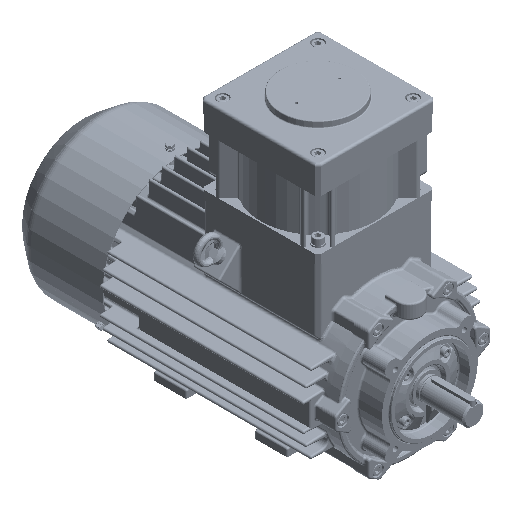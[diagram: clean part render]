
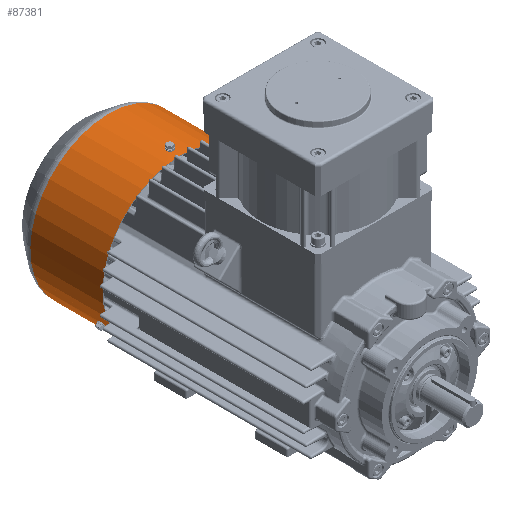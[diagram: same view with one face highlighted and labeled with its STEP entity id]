
A CAD part, isometric view. The second image highlights one B-rep face of the part: STEP entity #87381.
In plain terms, the highlighted cylindrical face has radius 105 mm (diameter 210 mm), a partial arc.
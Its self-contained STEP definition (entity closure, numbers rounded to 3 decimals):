
#1786=B_SPLINE_CURVE_WITH_KNOTS('',3,(#141268,#141269,#141270,#141271,#141272,
#141273,#141274),.UNSPECIFIED.,.F.,.F.,(4,1,1,1,4),(0.,0.002,
0.004,0.006,0.008),
 .UNSPECIFIED.);
#1787=B_SPLINE_CURVE_WITH_KNOTS('',3,(#141276,#141277,#141278,#141279,#141280,
#141281,#141282),.UNSPECIFIED.,.F.,.F.,(4,1,1,1,4),(0.,0.002,
0.004,0.006,0.008),
 .UNSPECIFIED.);
#1790=B_SPLINE_CURVE_WITH_KNOTS('',3,(#141311,#141312,#141313,#141314,#141315,
#141316,#141317),.UNSPECIFIED.,.F.,.F.,(4,1,1,1,4),(0.,
0.002,0.004,0.006,0.008),
 .UNSPECIFIED.);
#1792=B_SPLINE_CURVE_WITH_KNOTS('',3,(#141334,#141335,#141336,#141337,#141338,
#141339,#141340),.UNSPECIFIED.,.F.,.F.,(4,1,1,1,4),(0.,
0.002,0.004,0.006,0.008),
 .UNSPECIFIED.);
#1794=B_SPLINE_CURVE_WITH_KNOTS('',3,(#141381,#141382,#141383,#141384,#141385,
#141386,#141387),.UNSPECIFIED.,.F.,.F.,(4,1,1,1,4),(0.,
0.002,0.004,0.006,0.008),
 .UNSPECIFIED.);
#1796=B_SPLINE_CURVE_WITH_KNOTS('',3,(#141399,#141400,#141401,#141402,#141403,
#141404,#141405),.UNSPECIFIED.,.F.,.F.,(4,1,1,1,4),(0.,0.002,
0.004,0.006,0.008),
 .UNSPECIFIED.);
#3497=CYLINDRICAL_SURFACE('',#94264,105.);
#6914=CIRCLE('',#94230,105.);
#6916=CIRCLE('',#94233,105.);
#6920=CIRCLE('',#94243,105.);
#6922=CIRCLE('',#94246,105.);
#6926=CIRCLE('',#94252,105.);
#6928=CIRCLE('',#94255,105.);
#6930=CIRCLE('',#94260,105.);
#6932=CIRCLE('',#94265,105.);
#20918=ORIENTED_EDGE('',*,*,#33982,.T.);
#20919=ORIENTED_EDGE('',*,*,#33924,.T.);
#20920=ORIENTED_EDGE('',*,*,#33965,.F.);
#20921=ORIENTED_EDGE('',*,*,#33930,.T.);
#20922=ORIENTED_EDGE('',*,*,#33933,.T.);
#20923=ORIENTED_EDGE('',*,*,#33941,.T.);
#20924=ORIENTED_EDGE('',*,*,#33938,.T.);
#20925=ORIENTED_EDGE('',*,*,#33940,.T.);
#20926=ORIENTED_EDGE('',*,*,#33954,.T.);
#20927=ORIENTED_EDGE('',*,*,#33958,.T.);
#20928=ORIENTED_EDGE('',*,*,#33949,.T.);
#20929=ORIENTED_EDGE('',*,*,#33956,.T.);
#20930=ORIENTED_EDGE('',*,*,#33973,.T.);
#20931=ORIENTED_EDGE('',*,*,#33970,.T.);
#20932=ORIENTED_EDGE('',*,*,#33976,.T.);
#20933=ORIENTED_EDGE('',*,*,#33978,.T.);
#33924=EDGE_CURVE('',#41359,#41357,#45875,.T.);
#33930=EDGE_CURVE('',#41362,#41364,#45878,.T.);
#33933=EDGE_CURVE('',#41368,#41367,#6914,.T.);
#33938=EDGE_CURVE('',#41369,#41372,#6916,.T.);
#33940=EDGE_CURVE('',#41372,#41368,#1786,.T.);
#33941=EDGE_CURVE('',#41367,#41369,#1787,.T.);
#33949=EDGE_CURVE('',#41380,#41379,#1790,.T.);
#33954=EDGE_CURVE('',#41381,#41384,#1792,.T.);
#33956=EDGE_CURVE('',#41379,#41381,#6920,.T.);
#33958=EDGE_CURVE('',#41384,#41380,#6922,.T.);
#33965=EDGE_CURVE('',#41362,#41357,#6926,.T.);
#33970=EDGE_CURVE('',#41389,#41392,#6928,.T.);
#33973=EDGE_CURVE('',#41393,#41389,#1794,.T.);
#33976=EDGE_CURVE('',#41392,#41396,#1796,.T.);
#33978=EDGE_CURVE('',#41396,#41393,#6930,.T.);
#33982=EDGE_CURVE('',#41364,#41359,#6932,.T.);
#41357=VERTEX_POINT('',#141226);
#41359=VERTEX_POINT('',#141229);
#41362=VERTEX_POINT('',#141236);
#41364=VERTEX_POINT('',#141240);
#41367=VERTEX_POINT('',#141247);
#41368=VERTEX_POINT('',#141249);
#41369=VERTEX_POINT('',#141253);
#41372=VERTEX_POINT('',#141258);
#41379=VERTEX_POINT('',#141310);
#41380=VERTEX_POINT('',#141318);
#41381=VERTEX_POINT('',#141322);
#41384=VERTEX_POINT('',#141333);
#41389=VERTEX_POINT('',#141363);
#41392=VERTEX_POINT('',#141368);
#41393=VERTEX_POINT('',#141372);
#41396=VERTEX_POINT('',#141398);
#45875=LINE('',#141228,#50367);
#45878=LINE('',#141241,#50370);
#50367=VECTOR('',#110183,1000.);
#50370=VECTOR('',#110194,1000.);
#56110=EDGE_LOOP('',(#20918,#20919,#20920,#20921));
#56111=EDGE_LOOP('',(#20922,#20923,#20924,#20925));
#56112=EDGE_LOOP('',(#20926,#20927,#20928,#20929));
#56113=EDGE_LOOP('',(#20930,#20931,#20932,#20933));
#61092=FACE_BOUND('',#56110,.T.);
#61093=FACE_BOUND('',#56111,.T.);
#61094=FACE_BOUND('',#56112,.T.);
#61095=FACE_BOUND('',#56113,.T.);
#87381=ADVANCED_FACE('',(#61092,#61093,#61094,#61095),#3497,.T.);
#94230=AXIS2_PLACEMENT_3D('',#141248,#110200,#110201);
#94233=AXIS2_PLACEMENT_3D('',#141259,#110209,#110210);
#94243=AXIS2_PLACEMENT_3D('',#141343,#110235,#110236);
#94246=AXIS2_PLACEMENT_3D('',#141346,#110241,#110242);
#94252=AXIS2_PLACEMENT_3D('',#141359,#110256,#110257);
#94255=AXIS2_PLACEMENT_3D('',#141369,#110265,#110266);
#94260=AXIS2_PLACEMENT_3D('',#141408,#110277,#110278);
#94264=AXIS2_PLACEMENT_3D('',#141482,#110285,#110286);
#94265=AXIS2_PLACEMENT_3D('',#141483,#110287,#110288);
#110183=DIRECTION('',(0.,-1.,0.));
#110194=DIRECTION('',(0.,1.,0.));
#110200=DIRECTION('',(0.,-1.,0.));
#110201=DIRECTION('',(-1.,0.,0.));
#110209=DIRECTION('',(0.,1.,0.));
#110210=DIRECTION('',(1.,0.,0.));
#110235=DIRECTION('',(0.,-1.,0.));
#110236=DIRECTION('',(-1.,0.,0.));
#110241=DIRECTION('',(0.,1.,0.));
#110242=DIRECTION('',(1.,0.,0.));
#110256=DIRECTION('',(0.,-1.,0.));
#110257=DIRECTION('',(1.,0.,0.));
#110265=DIRECTION('',(0.,1.,0.));
#110266=DIRECTION('',(1.,0.,0.));
#110277=DIRECTION('',(0.,-1.,0.));
#110278=DIRECTION('',(-1.,0.,0.));
#110285=DIRECTION('',(0.,-1.,0.));
#110286=DIRECTION('',(1.,0.,0.));
#110287=DIRECTION('',(0.,-1.,0.));
#110288=DIRECTION('',(-1.,0.,0.));
#141226=CARTESIAN_POINT('',(-40.599,294.994,-96.833));
#141228=CARTESIAN_POINT('',(-40.599,287.114,-96.833));
#141229=CARTESIAN_POINT('',(-40.599,391.391,-96.833));
#141236=CARTESIAN_POINT('',(40.599,294.994,-96.833));
#141240=CARTESIAN_POINT('',(40.599,391.391,-96.833));
#141241=CARTESIAN_POINT('',(40.599,287.114,-96.833));
#141247=CARTESIAN_POINT('',(91.429,307.394,-51.632));
#141248=CARTESIAN_POINT('',(0.,307.394,0.));
#141249=CARTESIAN_POINT('',(90.429,307.394,-53.364));
#141253=CARTESIAN_POINT('',(91.429,312.594,-51.632));
#141258=CARTESIAN_POINT('',(90.429,312.594,-53.364));
#141259=CARTESIAN_POINT('',(0.,312.594,0.));
#141268=CARTESIAN_POINT('',(90.429,312.594,-53.364));
#141269=CARTESIAN_POINT('',(90.079,312.594,-53.955));
#141270=CARTESIAN_POINT('',(89.381,312.031,-55.107));
#141271=CARTESIAN_POINT('',(88.929,309.997,-55.826));
#141272=CARTESIAN_POINT('',(89.38,307.959,-55.109));
#141273=CARTESIAN_POINT('',(90.079,307.394,-53.955));
#141274=CARTESIAN_POINT('',(90.429,307.394,-53.364));
#141276=CARTESIAN_POINT('',(91.429,307.394,-51.632));
#141277=CARTESIAN_POINT('',(91.766,307.394,-51.034));
#141278=CARTESIAN_POINT('',(92.414,307.956,-49.854));
#141279=CARTESIAN_POINT('',(92.812,309.995,-49.101));
#141280=CARTESIAN_POINT('',(92.415,312.031,-49.852));
#141281=CARTESIAN_POINT('',(91.766,312.594,-51.034));
#141282=CARTESIAN_POINT('',(91.429,312.594,-51.632));
#141310=CARTESIAN_POINT('',(-91.429,307.394,-51.632));
#141311=CARTESIAN_POINT('',(-91.429,312.594,-51.632));
#141312=CARTESIAN_POINT('',(-91.766,312.594,-51.033));
#141313=CARTESIAN_POINT('',(-92.415,312.031,-49.853));
#141314=CARTESIAN_POINT('',(-92.811,309.997,-49.101));
#141315=CARTESIAN_POINT('',(-92.416,307.959,-49.851));
#141316=CARTESIAN_POINT('',(-91.766,307.394,-51.033));
#141317=CARTESIAN_POINT('',(-91.429,307.394,-51.632));
#141318=CARTESIAN_POINT('',(-91.429,312.594,-51.632));
#141322=CARTESIAN_POINT('',(-90.429,307.394,-53.364));
#141333=CARTESIAN_POINT('',(-90.429,312.594,-53.364));
#141334=CARTESIAN_POINT('',(-90.429,307.394,-53.364));
#141335=CARTESIAN_POINT('',(-90.08,307.394,-53.955));
#141336=CARTESIAN_POINT('',(-89.382,307.956,-55.106));
#141337=CARTESIAN_POINT('',(-88.928,309.995,-55.827));
#141338=CARTESIAN_POINT('',(-89.38,312.031,-55.108));
#141339=CARTESIAN_POINT('',(-90.08,312.594,-53.955));
#141340=CARTESIAN_POINT('',(-90.429,312.594,-53.364));
#141343=CARTESIAN_POINT('',(0.,307.394,0.));
#141346=CARTESIAN_POINT('',(0.,312.594,0.));
#141359=CARTESIAN_POINT('',(0.,294.994,0.));
#141363=CARTESIAN_POINT('',(-1.,312.594,104.995));
#141368=CARTESIAN_POINT('',(1.,312.594,104.995));
#141369=CARTESIAN_POINT('',(0.,312.594,0.));
#141372=CARTESIAN_POINT('',(-1.,307.394,104.995));
#141381=CARTESIAN_POINT('',(-1.,307.394,104.995));
#141382=CARTESIAN_POINT('',(-1.687,307.394,104.989));
#141383=CARTESIAN_POINT('',(-3.032,307.956,104.96));
#141384=CARTESIAN_POINT('',(-3.883,309.995,104.928));
#141385=CARTESIAN_POINT('',(-3.035,312.031,104.96));
#141386=CARTESIAN_POINT('',(-1.687,312.594,104.989));
#141387=CARTESIAN_POINT('',(-1.,312.594,104.995));
#141398=CARTESIAN_POINT('',(1.,307.394,104.995));
#141399=CARTESIAN_POINT('',(1.,312.594,104.995));
#141400=CARTESIAN_POINT('',(1.687,312.594,104.989));
#141401=CARTESIAN_POINT('',(3.034,312.031,104.96));
#141402=CARTESIAN_POINT('',(3.883,309.997,104.928));
#141403=CARTESIAN_POINT('',(3.036,307.959,104.96));
#141404=CARTESIAN_POINT('',(1.687,307.394,104.989));
#141405=CARTESIAN_POINT('',(1.,307.394,104.995));
#141408=CARTESIAN_POINT('',(0.,307.394,0.));
#141482=CARTESIAN_POINT('',(0.,287.114,0.));
#141483=CARTESIAN_POINT('',(0.,391.391,0.));
